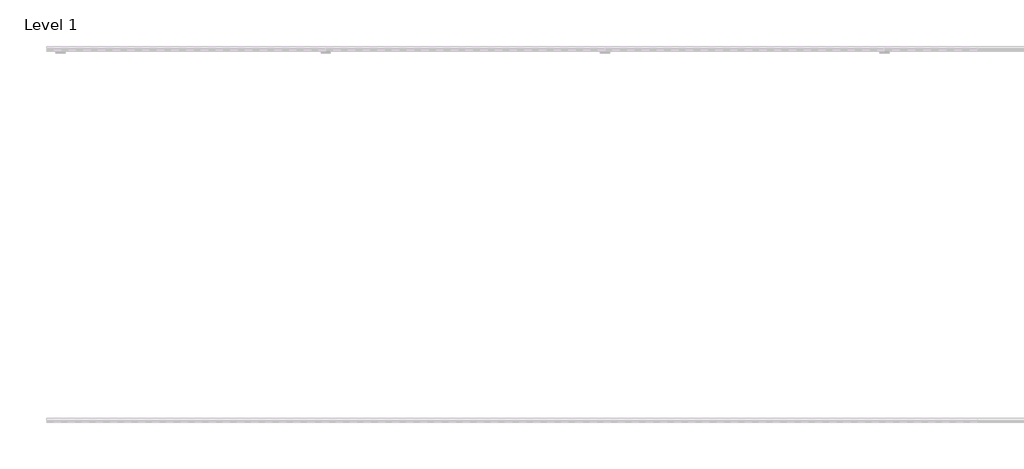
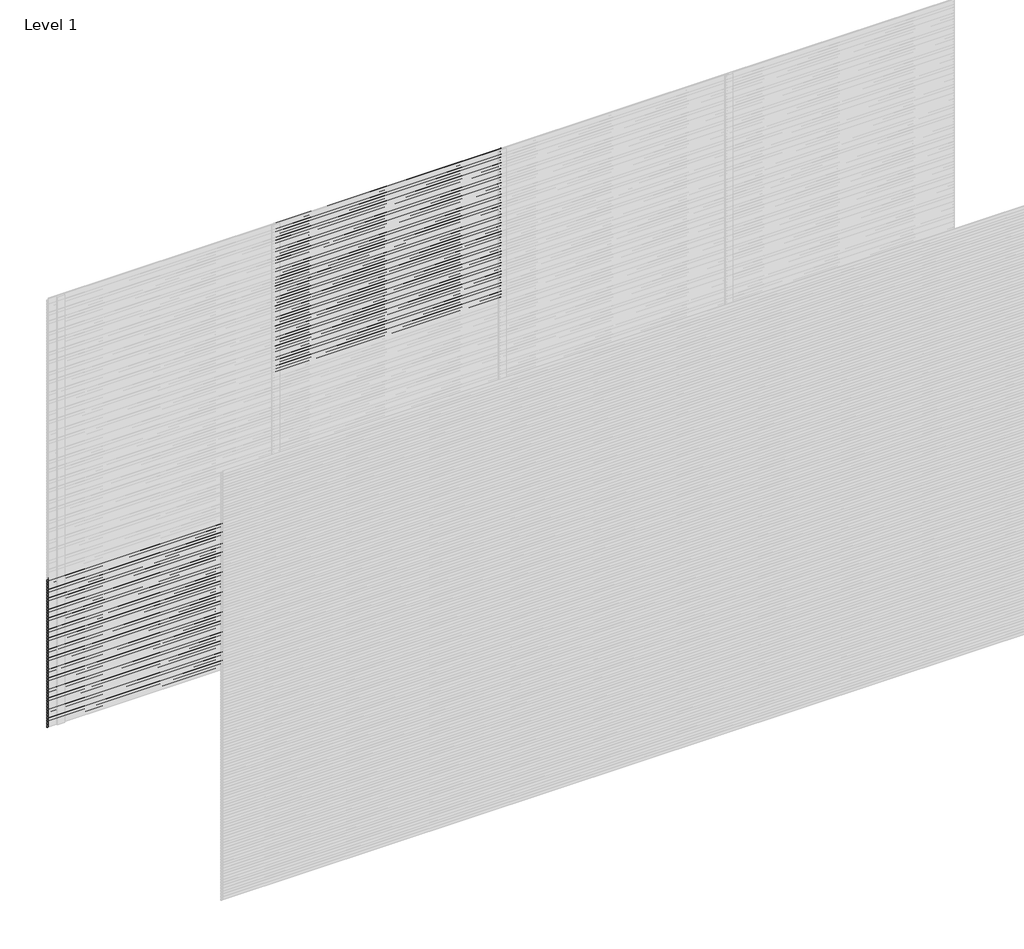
# One storey, part 27 of 31: 104 proxies.
"""IFC4 building model written with IfcOpenShell, lengths in millimetres."""

from ifc_helpers import new_model, si_unit, frame, origin, place, context, project, spatial, polyline, outline, extrude, element, save

model = new_model("IFC4")

# Units and contexts
model_context = context("Model", 3, world=origin())
ifc_project = project(units=[si_unit("LENGTHUNIT", "METRE", prefix="MILLI")], contexts=[model_context])

# Site, building, storey
site = spatial("IfcSite", under=ifc_project)
building = spatial("IfcBuilding", under=site)
storey = spatial("IfcBuildingStorey", under=building, Name="Level 1", Elevation=0.0)

# Proxies
placement = place(None, origin())
element("IfcBuildingElementProxy", 1, Name="Wall Sweeps", at=placement, inside=storey, context=model_context, shape_type="SweptSolid", body=[
    extrude(outline(polyline([(5.0, 1040.0), (5.0, 1028.942893), (24.0, 1013.0), (24.0, 1000.0), (3.0, 1017.6210923), (3.0, 1040.0), (5.0, 1040.0)])), frame((0.0, 0.0, 0.0), z_axis=(1.0, 0.0, 0.0), x_axis=(0.0, 1.0, 0.0)), (0.0, 0.0, 1.0), 1500.0),
])
element("IfcBuildingElementProxy", 2, Name="Wall Sweeps", at=placement, inside=storey, context=model_context, shape_type="SweptSolid", body=[
    extrude(outline(polyline([(5.0, 1020.0), (5.0, 1008.942893), (24.0, 993.0), (24.0, 980.0), (3.0, 997.6210923), (3.0, 1020.0), (5.0, 1020.0)])), frame((0.0, 0.0, 0.0), z_axis=(1.0, 0.0, 0.0), x_axis=(0.0, 1.0, 0.0)), (0.0, 0.0, 1.0), 1500.0),
])
element("IfcBuildingElementProxy", 3, Name="Wall Sweeps", at=placement, inside=storey, context=model_context, shape_type="SweptSolid", body=[
    extrude(outline(polyline([(5.0, 1000.0), (5.0, 988.942893), (24.0, 973.0), (24.0, 960.0), (3.0, 977.6210923), (3.0, 1000.0), (5.0, 1000.0)])), frame((0.0, 0.0, 0.0), z_axis=(1.0, 0.0, 0.0), x_axis=(0.0, 1.0, 0.0)), (0.0, 0.0, 1.0), 1500.0),
])
element("IfcBuildingElementProxy", 4, Name="Wall Sweeps", at=placement, inside=storey, context=model_context, shape_type="SweptSolid", body=[
    extrude(outline(polyline([(5.0, 980.0), (5.0, 968.942893), (24.0, 953.0), (24.0, 940.0), (3.0, 957.6210923), (3.0, 980.0), (5.0, 980.0)])), frame((0.0, 0.0, 0.0), z_axis=(1.0, 0.0, 0.0), x_axis=(0.0, 1.0, 0.0)), (0.0, 0.0, 1.0), 1500.0),
])
element("IfcBuildingElementProxy", 5, Name="Wall Sweeps", at=placement, inside=storey, context=model_context, shape_type="SweptSolid", body=[
    extrude(outline(polyline([(5.0, 960.0), (5.0, 948.942893), (24.0, 933.0), (24.0, 920.0), (3.0, 937.6210923), (3.0, 960.0), (5.0, 960.0)])), frame((0.0, 0.0, 0.0), z_axis=(1.0, 0.0, 0.0), x_axis=(0.0, 1.0, 0.0)), (0.0, 0.0, 1.0), 1500.0),
])
element("IfcBuildingElementProxy", 6, Name="Wall Sweeps", at=placement, inside=storey, context=model_context, shape_type="SweptSolid", body=[
    extrude(outline(polyline([(5.0, 940.0), (5.0, 928.942893), (24.0, 913.0), (24.0, 900.0), (3.0, 917.6210923), (3.0, 940.0), (5.0, 940.0)])), frame((0.0, 0.0, 0.0), z_axis=(1.0, 0.0, 0.0), x_axis=(0.0, 1.0, 0.0)), (0.0, 0.0, 1.0), 1500.0),
])
element("IfcBuildingElementProxy", 7, Name="Wall Sweeps", at=placement, inside=storey, context=model_context, shape_type="SweptSolid", body=[
    extrude(outline(polyline([(5.0, 920.0), (5.0, 908.942893), (24.0, 893.0), (24.0, 880.0), (3.0, 897.6210923), (3.0, 920.0), (5.0, 920.0)])), frame((0.0, 0.0, 0.0), z_axis=(1.0, 0.0, 0.0), x_axis=(0.0, 1.0, 0.0)), (0.0, 0.0, 1.0), 1500.0),
])
element("IfcBuildingElementProxy", 8, Name="Wall Sweeps", at=placement, inside=storey, context=model_context, shape_type="SweptSolid", body=[
    extrude(outline(polyline([(5.0, 900.0), (5.0, 888.942893), (24.0, 873.0), (24.0, 860.0), (3.0, 877.6210923), (3.0, 900.0), (5.0, 900.0)])), frame((0.0, 0.0, 0.0), z_axis=(1.0, 0.0, 0.0), x_axis=(0.0, 1.0, 0.0)), (0.0, 0.0, 1.0), 1500.0),
])
element("IfcBuildingElementProxy", 9, Name="Wall Sweeps", at=placement, inside=storey, context=model_context, shape_type="SweptSolid", body=[
    extrude(outline(polyline([(5.0, 880.0), (5.0, 868.942893), (24.0, 853.0), (24.0, 840.0), (3.0, 857.6210923), (3.0, 880.0), (5.0, 880.0)])), frame((0.0, 0.0, 0.0), z_axis=(1.0, 0.0, 0.0), x_axis=(0.0, 1.0, 0.0)), (0.0, 0.0, 1.0), 1500.0),
])
element("IfcBuildingElementProxy", 10, Name="Wall Sweeps", at=placement, inside=storey, context=model_context, shape_type="SweptSolid", body=[
    extrude(outline(polyline([(5.0, 860.0), (5.0, 848.942893), (24.0, 833.0), (24.0, 820.0), (3.0, 837.6210923), (3.0, 860.0), (5.0, 860.0)])), frame((0.0, 0.0, 0.0), z_axis=(1.0, 0.0, 0.0), x_axis=(0.0, 1.0, 0.0)), (0.0, 0.0, 1.0), 1500.0),
])
element("IfcBuildingElementProxy", 11, Name="Wall Sweeps", at=placement, inside=storey, context=model_context, shape_type="SweptSolid", body=[
    extrude(outline(polyline([(5.0, 840.0), (5.0, 828.942893), (24.0, 813.0), (24.0, 800.0), (3.0, 817.6210923), (3.0, 840.0), (5.0, 840.0)])), frame((0.0, 0.0, 0.0), z_axis=(1.0, 0.0, 0.0), x_axis=(0.0, 1.0, 0.0)), (0.0, 0.0, 1.0), 1500.0),
])
element("IfcBuildingElementProxy", 12, Name="Wall Sweeps", at=placement, inside=storey, context=model_context, shape_type="SweptSolid", body=[
    extrude(outline(polyline([(5.0, 820.0), (5.0, 808.942893), (24.0, 793.0), (24.0, 780.0), (3.0, 797.6210923), (3.0, 820.0), (5.0, 820.0)])), frame((0.0, 0.0, 0.0), z_axis=(1.0, 0.0, 0.0), x_axis=(0.0, 1.0, 0.0)), (0.0, 0.0, 1.0), 1500.0),
])
element("IfcBuildingElementProxy", 13, Name="Wall Sweeps", at=placement, inside=storey, context=model_context, shape_type="SweptSolid", body=[
    extrude(outline(polyline([(5.0, 800.0), (5.0, 788.942893), (24.0, 773.0), (24.0, 760.0), (3.0, 777.6210923), (3.0, 800.0), (5.0, 800.0)])), frame((0.0, 0.0, 0.0), z_axis=(1.0, 0.0, 0.0), x_axis=(0.0, 1.0, 0.0)), (0.0, 0.0, 1.0), 1500.0),
])
element("IfcBuildingElementProxy", 14, Name="Wall Sweeps", at=placement, inside=storey, context=model_context, shape_type="SweptSolid", body=[
    extrude(outline(polyline([(5.0, 780.0), (5.0, 768.942893), (24.0, 753.0), (24.0, 740.0), (3.0, 757.6210923), (3.0, 780.0), (5.0, 780.0)])), frame((0.0, 0.0, 0.0), z_axis=(1.0, 0.0, 0.0), x_axis=(0.0, 1.0, 0.0)), (0.0, 0.0, 1.0), 1500.0),
])
element("IfcBuildingElementProxy", 15, Name="Wall Sweeps", at=placement, inside=storey, context=model_context, shape_type="SweptSolid", body=[
    extrude(outline(polyline([(5.0, 760.0), (5.0, 748.942893), (24.0, 733.0), (24.0, 720.0), (3.0, 737.6210923), (3.0, 760.0), (5.0, 760.0)])), frame((0.0, 0.0, 0.0), z_axis=(1.0, 0.0, 0.0), x_axis=(0.0, 1.0, 0.0)), (0.0, 0.0, 1.0), 1500.0),
])
element("IfcBuildingElementProxy", 16, Name="Wall Sweeps", at=placement, inside=storey, context=model_context, shape_type="SweptSolid", body=[
    extrude(outline(polyline([(5.0, 740.0), (5.0, 728.942893), (24.0, 713.0), (24.0, 700.0), (3.0, 717.6210923), (3.0, 740.0), (5.0, 740.0)])), frame((0.0, 0.0, 0.0), z_axis=(1.0, 0.0, 0.0), x_axis=(0.0, 1.0, 0.0)), (0.0, 0.0, 1.0), 1500.0),
])
element("IfcBuildingElementProxy", 17, Name="Wall Sweeps", at=placement, inside=storey, context=model_context, shape_type="SweptSolid", body=[
    extrude(outline(polyline([(5.0, 720.0), (5.0, 708.942893), (24.0, 693.0), (24.0, 680.0), (3.0, 697.6210923), (3.0, 720.0), (5.0, 720.0)])), frame((0.0, 0.0, 0.0), z_axis=(1.0, 0.0, 0.0), x_axis=(0.0, 1.0, 0.0)), (0.0, 0.0, 1.0), 1500.0),
])
element("IfcBuildingElementProxy", 18, Name="Wall Sweeps", at=placement, inside=storey, context=model_context, shape_type="SweptSolid", body=[
    extrude(outline(polyline([(5.0, 700.0), (5.0, 688.942893), (24.0, 673.0), (24.0, 660.0), (3.0, 677.6210923), (3.0, 700.0), (5.0, 700.0)])), frame((0.0, 0.0, 0.0), z_axis=(1.0, 0.0, 0.0), x_axis=(0.0, 1.0, 0.0)), (0.0, 0.0, 1.0), 1500.0),
])
element("IfcBuildingElementProxy", 19, Name="Wall Sweeps", at=placement, inside=storey, context=model_context, shape_type="SweptSolid", body=[
    extrude(outline(polyline([(5.0, 680.0), (5.0, 668.942893), (24.0, 653.0), (24.0, 640.0), (3.0, 657.6210923), (3.0, 680.0), (5.0, 680.0)])), frame((0.0, 0.0, 0.0), z_axis=(1.0, 0.0, 0.0), x_axis=(0.0, 1.0, 0.0)), (0.0, 0.0, 1.0), 1500.0),
])
element("IfcBuildingElementProxy", 20, Name="Wall Sweeps", at=placement, inside=storey, context=model_context, shape_type="SweptSolid", body=[
    extrude(outline(polyline([(5.0, 660.0), (5.0, 648.942893), (24.0, 633.0), (24.0, 620.0), (3.0, 637.6210923), (3.0, 660.0), (5.0, 660.0)])), frame((0.0, 0.0, 0.0), z_axis=(1.0, 0.0, 0.0), x_axis=(0.0, 1.0, 0.0)), (0.0, 0.0, 1.0), 1500.0),
])
element("IfcBuildingElementProxy", 21, Name="Wall Sweeps", at=placement, inside=storey, context=model_context, shape_type="SweptSolid", body=[
    extrude(outline(polyline([(5.0, 640.0), (5.0, 628.942893), (24.0, 613.0), (24.0, 600.0), (3.0, 617.6210923), (3.0, 640.0), (5.0, 640.0)])), frame((0.0, 0.0, 0.0), z_axis=(1.0, 0.0, 0.0), x_axis=(0.0, 1.0, 0.0)), (0.0, 0.0, 1.0), 1500.0),
])
element("IfcBuildingElementProxy", 22, Name="Wall Sweeps", at=placement, inside=storey, context=model_context, shape_type="SweptSolid", body=[
    extrude(outline(polyline([(5.0, 620.0), (5.0, 608.942893), (24.0, 593.0), (24.0, 580.0), (3.0, 597.6210923), (3.0, 620.0), (5.0, 620.0)])), frame((0.0, 0.0, 0.0), z_axis=(1.0, 0.0, 0.0), x_axis=(0.0, 1.0, 0.0)), (0.0, 0.0, 1.0), 1500.0),
])
element("IfcBuildingElementProxy", 23, Name="Wall Sweeps", at=placement, inside=storey, context=model_context, shape_type="SweptSolid", body=[
    extrude(outline(polyline([(5.0, 600.0), (5.0, 588.942893), (24.0, 573.0), (24.0, 560.0), (3.0, 577.6210923), (3.0, 600.0), (5.0, 600.0)])), frame((0.0, 0.0, 0.0), z_axis=(1.0, 0.0, 0.0), x_axis=(0.0, 1.0, 0.0)), (0.0, 0.0, 1.0), 1500.0),
])
element("IfcBuildingElementProxy", 24, Name="Wall Sweeps", at=placement, inside=storey, context=model_context, shape_type="SweptSolid", body=[
    extrude(outline(polyline([(5.0, 580.0), (5.0, 568.942893), (24.0, 553.0), (24.0, 540.0), (3.0, 557.6210923), (3.0, 580.0), (5.0, 580.0)])), frame((0.0, 0.0, 0.0), z_axis=(1.0, 0.0, 0.0), x_axis=(0.0, 1.0, 0.0)), (0.0, 0.0, 1.0), 1500.0),
])
element("IfcBuildingElementProxy", 25, Name="Wall Sweeps", at=placement, inside=storey, context=model_context, shape_type="SweptSolid", body=[
    extrude(outline(polyline([(5.0, 560.0), (5.0, 548.942893), (24.0, 533.0), (24.0, 520.0), (3.0, 537.6210923), (3.0, 560.0), (5.0, 560.0)])), frame((0.0, 0.0, 0.0), z_axis=(1.0, 0.0, 0.0), x_axis=(0.0, 1.0, 0.0)), (0.0, 0.0, 1.0), 1500.0),
])
element("IfcBuildingElementProxy", 26, Name="Wall Sweeps", at=placement, inside=storey, context=model_context, shape_type="SweptSolid", body=[
    extrude(outline(polyline([(5.0, 540.0), (5.0, 528.942893), (24.0, 513.0), (24.0, 500.0), (3.0, 517.6210923), (3.0, 540.0), (5.0, 540.0)])), frame((0.0, 0.0, 0.0), z_axis=(1.0, 0.0, 0.0), x_axis=(0.0, 1.0, 0.0)), (0.0, 0.0, 1.0), 1500.0),
])
element("IfcBuildingElementProxy", 27, Name="Wall Sweeps", at=placement, inside=storey, context=model_context, shape_type="SweptSolid", body=[
    extrude(outline(polyline([(5.0, 520.0), (5.0, 508.942893), (24.0, 493.0), (24.0, 480.0), (3.0, 497.6210923), (3.0, 520.0), (5.0, 520.0)])), frame((0.0, 0.0, 0.0), z_axis=(1.0, 0.0, 0.0), x_axis=(0.0, 1.0, 0.0)), (0.0, 0.0, 1.0), 1500.0),
])
element("IfcBuildingElementProxy", 28, Name="Wall Sweeps", at=placement, inside=storey, context=model_context, shape_type="SweptSolid", body=[
    extrude(outline(polyline([(5.0, 500.0), (5.0, 488.942893), (24.0, 473.0), (24.0, 460.0), (3.0, 477.6210923), (3.0, 500.0), (5.0, 500.0)])), frame((0.0, 0.0, 0.0), z_axis=(1.0, 0.0, 0.0), x_axis=(0.0, 1.0, 0.0)), (0.0, 0.0, 1.0), 1500.0),
])
element("IfcBuildingElementProxy", 29, Name="Wall Sweeps", at=placement, inside=storey, context=model_context, shape_type="SweptSolid", body=[
    extrude(outline(polyline([(5.0, 480.0), (5.0, 468.942893), (24.0, 453.0), (24.0, 440.0), (3.0, 457.6210923), (3.0, 480.0), (5.0, 480.0)])), frame((0.0, 0.0, 0.0), z_axis=(1.0, 0.0, 0.0), x_axis=(0.0, 1.0, 0.0)), (0.0, 0.0, 1.0), 1500.0),
])
element("IfcBuildingElementProxy", 30, Name="Wall Sweeps", at=placement, inside=storey, context=model_context, shape_type="SweptSolid", body=[
    extrude(outline(polyline([(5.0, 460.0), (5.0, 448.942893), (24.0, 433.0), (24.0, 420.0), (3.0, 437.6210923), (3.0, 460.0), (5.0, 460.0)])), frame((0.0, 0.0, 0.0), z_axis=(1.0, 0.0, 0.0), x_axis=(0.0, 1.0, 0.0)), (0.0, 0.0, 1.0), 1500.0),
])
element("IfcBuildingElementProxy", 31, Name="Wall Sweeps", at=placement, inside=storey, context=model_context, shape_type="SweptSolid", body=[
    extrude(outline(polyline([(5.0, 440.0), (5.0, 428.942893), (24.0, 413.0), (24.0, 400.0), (3.0, 417.6210923), (3.0, 440.0), (5.0, 440.0)])), frame((0.0, 0.0, 0.0), z_axis=(1.0, 0.0, 0.0), x_axis=(0.0, 1.0, 0.0)), (0.0, 0.0, 1.0), 1500.0),
])
element("IfcBuildingElementProxy", 32, Name="Wall Sweeps", at=placement, inside=storey, context=model_context, shape_type="SweptSolid", body=[
    extrude(outline(polyline([(5.0, 420.0), (5.0, 408.942893), (24.0, 393.0), (24.0, 380.0), (3.0, 397.6210923), (3.0, 420.0), (5.0, 420.0)])), frame((0.0, 0.0, 0.0), z_axis=(1.0, 0.0, 0.0), x_axis=(0.0, 1.0, 0.0)), (0.0, 0.0, 1.0), 1500.0),
])
element("IfcBuildingElementProxy", 33, Name="Wall Sweeps", at=placement, inside=storey, context=model_context, shape_type="SweptSolid", body=[
    extrude(outline(polyline([(5.0, 400.0), (5.0, 388.942893), (24.0, 373.0), (24.0, 360.0), (3.0, 377.6210923), (3.0, 400.0), (5.0, 400.0)])), frame((0.0, 0.0, 0.0), z_axis=(1.0, 0.0, 0.0), x_axis=(0.0, 1.0, 0.0)), (0.0, 0.0, 1.0), 1500.0),
])
element("IfcBuildingElementProxy", 34, Name="Wall Sweeps", at=placement, inside=storey, context=model_context, shape_type="SweptSolid", body=[
    extrude(outline(polyline([(5.0, 380.0), (5.0, 368.942893), (24.0, 353.0), (24.0, 340.0), (3.0, 357.6210923), (3.0, 380.0), (5.0, 380.0)])), frame((0.0, 0.0, 0.0), z_axis=(1.0, 0.0, 0.0), x_axis=(0.0, 1.0, 0.0)), (0.0, 0.0, 1.0), 1500.0),
])
element("IfcBuildingElementProxy", 35, Name="Wall Sweeps", at=placement, inside=storey, context=model_context, shape_type="SweptSolid", body=[
    extrude(outline(polyline([(5.0, 360.0), (5.0, 348.942893), (24.0, 333.0), (24.0, 320.0), (3.0, 337.6210923), (3.0, 360.0), (5.0, 360.0)])), frame((0.0, 0.0, 0.0), z_axis=(1.0, 0.0, 0.0), x_axis=(0.0, 1.0, 0.0)), (0.0, 0.0, 1.0), 1500.0),
])
element("IfcBuildingElementProxy", 36, Name="Wall Sweeps", at=placement, inside=storey, context=model_context, shape_type="SweptSolid", body=[
    extrude(outline(polyline([(5.0, 340.0), (5.0, 328.942893), (24.0, 313.0), (24.0, 300.0), (3.0, 317.6210923), (3.0, 340.0), (5.0, 340.0)])), frame((0.0, 0.0, 0.0), z_axis=(1.0, 0.0, 0.0), x_axis=(0.0, 1.0, 0.0)), (0.0, 0.0, 1.0), 1500.0),
])
element("IfcBuildingElementProxy", 37, Name="Wall Sweeps", at=placement, inside=storey, context=model_context, shape_type="SweptSolid", body=[
    extrude(outline(polyline([(5.0, 320.0), (5.0, 308.942893), (24.0, 293.0), (24.0, 280.0), (3.0, 297.6210923), (3.0, 320.0), (5.0, 320.0)])), frame((0.0, 0.0, 0.0), z_axis=(1.0, 0.0, 0.0), x_axis=(0.0, 1.0, 0.0)), (0.0, 0.0, 1.0), 1500.0),
])
element("IfcBuildingElementProxy", 38, Name="Wall Sweeps", at=placement, inside=storey, context=model_context, shape_type="SweptSolid", body=[
    extrude(outline(polyline([(5.0, 300.0), (5.0, 288.942893), (24.0, 273.0), (24.0, 260.0), (3.0, 277.6210923), (3.0, 300.0), (5.0, 300.0)])), frame((0.0, 0.0, 0.0), z_axis=(1.0, 0.0, 0.0), x_axis=(0.0, 1.0, 0.0)), (0.0, 0.0, 1.0), 1500.0),
])
element("IfcBuildingElementProxy", 39, Name="Wall Sweeps", at=placement, inside=storey, context=model_context, shape_type="SweptSolid", body=[
    extrude(outline(polyline([(5.0, 280.0), (5.0, 268.942893), (24.0, 253.0), (24.0, 240.0), (3.0, 257.6210923), (3.0, 280.0), (5.0, 280.0)])), frame((0.0, 0.0, 0.0), z_axis=(1.0, 0.0, 0.0), x_axis=(0.0, 1.0, 0.0)), (0.0, 0.0, 1.0), 1500.0),
])
element("IfcBuildingElementProxy", 40, Name="Wall Sweeps", at=placement, inside=storey, context=model_context, shape_type="SweptSolid", body=[
    extrude(outline(polyline([(5.0, 260.0), (5.0, 248.942893), (24.0, 233.0), (24.0, 220.0), (3.0, 237.6210923), (3.0, 260.0), (5.0, 260.0)])), frame((0.0, 0.0, 0.0), z_axis=(1.0, 0.0, 0.0), x_axis=(0.0, 1.0, 0.0)), (0.0, 0.0, 1.0), 1500.0),
])
element("IfcBuildingElementProxy", 41, Name="Wall Sweeps", at=placement, inside=storey, context=model_context, shape_type="SweptSolid", body=[
    extrude(outline(polyline([(5.0, 240.0), (5.0, 228.942893), (24.0, 213.0), (24.0, 200.0), (3.0, 217.6210923), (3.0, 240.0), (5.0, 240.0)])), frame((0.0, 0.0, 0.0), z_axis=(1.0, 0.0, 0.0), x_axis=(0.0, 1.0, 0.0)), (0.0, 0.0, 1.0), 1500.0),
])
element("IfcBuildingElementProxy", 42, Name="Wall Sweeps", at=placement, inside=storey, context=model_context, shape_type="SweptSolid", body=[
    extrude(outline(polyline([(5.0, 220.0), (5.0, 208.942893), (24.0, 193.0), (24.0, 180.0), (3.0, 197.6210923), (3.0, 220.0), (5.0, 220.0)])), frame((0.0, 0.0, 0.0), z_axis=(1.0, 0.0, 0.0), x_axis=(0.0, 1.0, 0.0)), (0.0, 0.0, 1.0), 1500.0),
])
element("IfcBuildingElementProxy", 43, Name="Wall Sweeps", at=placement, inside=storey, context=model_context, shape_type="SweptSolid", body=[
    extrude(outline(polyline([(5.0, 200.0), (5.0, 188.942893), (24.0, 173.0), (24.0, 160.0), (3.0, 177.6210923), (3.0, 200.0), (5.0, 200.0)])), frame((0.0, 0.0, 0.0), z_axis=(1.0, 0.0, 0.0), x_axis=(0.0, 1.0, 0.0)), (0.0, 0.0, 1.0), 1500.0),
])
element("IfcBuildingElementProxy", 44, Name="Wall Sweeps", at=placement, inside=storey, context=model_context, shape_type="SweptSolid", body=[
    extrude(outline(polyline([(5.0, 180.0), (5.0, 168.942893), (24.0, 153.0), (24.0, 140.0), (3.0, 157.6210923), (3.0, 180.0), (5.0, 180.0)])), frame((0.0, 0.0, 0.0), z_axis=(1.0, 0.0, 0.0), x_axis=(0.0, 1.0, 0.0)), (0.0, 0.0, 1.0), 1500.0),
])
element("IfcBuildingElementProxy", 45, Name="Wall Sweeps", at=placement, inside=storey, context=model_context, shape_type="SweptSolid", body=[
    extrude(outline(polyline([(5.0, 160.0), (5.0, 148.942893), (24.0, 133.0), (24.0, 120.0), (3.0, 137.6210923), (3.0, 160.0), (5.0, 160.0)])), frame((0.0, 0.0, 0.0), z_axis=(1.0, 0.0, 0.0), x_axis=(0.0, 1.0, 0.0)), (0.0, 0.0, 1.0), 1500.0),
])
element("IfcBuildingElementProxy", 46, Name="Wall Sweeps", at=placement, inside=storey, context=model_context, shape_type="SweptSolid", body=[
    extrude(outline(polyline([(5.0, 140.0), (5.0, 128.942893), (24.0, 113.0), (24.0, 100.0), (3.0, 117.6210923), (3.0, 140.0), (5.0, 140.0)])), frame((0.0, 0.0, 0.0), z_axis=(1.0, 0.0, 0.0), x_axis=(0.0, 1.0, 0.0)), (0.0, 0.0, 1.0), 1500.0),
])
element("IfcBuildingElementProxy", 47, Name="Wall Sweeps", at=placement, inside=storey, context=model_context, shape_type="SweptSolid", body=[
    extrude(outline(polyline([(5.0, 120.0), (5.0, 108.942893), (24.0, 93.0), (24.0, 80.0), (3.0, 97.6210923), (3.0, 120.0), (5.0, 120.0)])), frame((0.0, 0.0, 0.0), z_axis=(1.0, 0.0, 0.0), x_axis=(0.0, 1.0, 0.0)), (0.0, 0.0, 1.0), 1500.0),
])
element("IfcBuildingElementProxy", 48, Name="Wall Sweeps", at=placement, inside=storey, context=model_context, shape_type="SweptSolid", body=[
    extrude(outline(polyline([(5.0, 100.0), (5.0, 88.942893), (24.0, 73.0), (24.0, 60.0), (3.0, 77.6210923), (3.0, 100.0), (5.0, 100.0)])), frame((0.0, 0.0, 0.0), z_axis=(1.0, 0.0, 0.0), x_axis=(0.0, 1.0, 0.0)), (0.0, 0.0, 1.0), 1500.0),
])
element("IfcBuildingElementProxy", 49, Name="Wall Sweeps", at=placement, inside=storey, context=model_context, shape_type="SweptSolid", body=[
    extrude(outline(polyline([(5.0, 80.0), (5.0, 68.942893), (24.0, 53.0), (24.0, 40.0), (3.0, 57.6210923), (3.0, 80.0), (5.0, 80.0)])), frame((0.0, 0.0, 0.0), z_axis=(1.0, 0.0, 0.0), x_axis=(0.0, 1.0, 0.0)), (0.0, 0.0, 1.0), 1500.0),
])
element("IfcBuildingElementProxy", 50, Name="Wall Sweeps", at=placement, inside=storey, context=model_context, shape_type="SweptSolid", body=[
    extrude(outline(polyline([(5.0, 60.0), (5.0, 48.942893), (24.0, 33.0), (24.0, 20.0), (3.0, 37.6210923), (3.0, 60.0), (5.0, 60.0)])), frame((0.0, 0.0, 0.0), z_axis=(1.0, 0.0, 0.0), x_axis=(0.0, 1.0, 0.0)), (0.0, 0.0, 1.0), 1500.0),
])
element("IfcBuildingElementProxy", 51, Name="Wall Sweeps", at=placement, inside=storey, context=model_context, shape_type="SweptSolid", body=[
    extrude(outline(polyline([(5.0, 40.0), (5.0, 28.942893), (24.0, 13.0), (24.0, 0.0), (3.0, 17.6210923), (3.0, 40.0), (5.0, 40.0)])), frame((0.0, 0.0, 0.0), z_axis=(1.0, 0.0, 0.0), x_axis=(0.0, 1.0, 0.0)), (0.0, 0.0, 1.0), 1500.0),
])
element("IfcBuildingElementProxy", 52, Name="Wall Sweeps", at=placement, inside=storey, context=model_context, shape_type="SweptSolid", body=[
    extrude(outline(polyline([(5.0, 20.0), (5.0, 8.942893), (24.0, -7.0), (24.0, -20.0), (3.0, -2.3789077), (3.0, 20.0), (5.0, 20.0)])), frame((0.0, 0.0, 0.0), z_axis=(1.0, 0.0, 0.0), x_axis=(0.0, 1.0, 0.0)), (0.0, 0.0, 1.0), 1500.0),
])
element("IfcBuildingElementProxy", 53, Name="Wall Sweeps", at=placement, inside=storey, context=model_context, shape_type="SweptSolid", body=[
    extrude(outline(polyline([(5.0, 3000.0), (5.0, 2988.942893), (24.0, 2973.0), (24.0, 2960.0), (3.0, 2977.6210923), (3.0, 3000.0), (5.0, 3000.0)])), frame((1500.0, 0.0, 0.0), z_axis=(1.0, 0.0, 0.0), x_axis=(0.0, 1.0, 0.0)), (0.0, 0.0, 1.0), 1500.0),
])
element("IfcBuildingElementProxy", 54, Name="Wall Sweeps", at=placement, inside=storey, context=model_context, shape_type="SweptSolid", body=[
    extrude(outline(polyline([(5.0, 2980.0), (5.0, 2968.942893), (24.0, 2953.0), (24.0, 2940.0), (3.0, 2957.6210923), (3.0, 2980.0), (5.0, 2980.0)])), frame((1500.0, 0.0, 0.0), z_axis=(1.0, 0.0, 0.0), x_axis=(0.0, 1.0, 0.0)), (0.0, 0.0, 1.0), 1500.0),
])
element("IfcBuildingElementProxy", 55, Name="Wall Sweeps", at=placement, inside=storey, context=model_context, shape_type="SweptSolid", body=[
    extrude(outline(polyline([(5.0, 2960.0), (5.0, 2948.942893), (24.0, 2933.0), (24.0, 2920.0), (3.0, 2937.6210923), (3.0, 2960.0), (5.0, 2960.0)])), frame((1500.0, 0.0, 0.0), z_axis=(1.0, 0.0, 0.0), x_axis=(0.0, 1.0, 0.0)), (0.0, 0.0, 1.0), 1500.0),
])
element("IfcBuildingElementProxy", 56, Name="Wall Sweeps", at=placement, inside=storey, context=model_context, shape_type="SweptSolid", body=[
    extrude(outline(polyline([(5.0, 2940.0), (5.0, 2928.942893), (24.0, 2913.0), (24.0, 2900.0), (3.0, 2917.6210923), (3.0, 2940.0), (5.0, 2940.0)])), frame((1500.0, 0.0, 0.0), z_axis=(1.0, 0.0, 0.0), x_axis=(0.0, 1.0, 0.0)), (0.0, 0.0, 1.0), 1500.0),
])
element("IfcBuildingElementProxy", 57, Name="Wall Sweeps", at=placement, inside=storey, context=model_context, shape_type="SweptSolid", body=[
    extrude(outline(polyline([(5.0, 2920.0), (5.0, 2908.942893), (24.0, 2893.0), (24.0, 2880.0), (3.0, 2897.6210923), (3.0, 2920.0), (5.0, 2920.0)])), frame((1500.0, 0.0, 0.0), z_axis=(1.0, 0.0, 0.0), x_axis=(0.0, 1.0, 0.0)), (0.0, 0.0, 1.0), 1500.0),
])
element("IfcBuildingElementProxy", 58, Name="Wall Sweeps", at=placement, inside=storey, context=model_context, shape_type="SweptSolid", body=[
    extrude(outline(polyline([(5.0, 2900.0), (5.0, 2888.942893), (24.0, 2873.0), (24.0, 2860.0), (3.0, 2877.6210923), (3.0, 2900.0), (5.0, 2900.0)])), frame((1500.0, 0.0, 0.0), z_axis=(1.0, 0.0, 0.0), x_axis=(0.0, 1.0, 0.0)), (0.0, 0.0, 1.0), 1500.0),
])
element("IfcBuildingElementProxy", 59, Name="Wall Sweeps", at=placement, inside=storey, context=model_context, shape_type="SweptSolid", body=[
    extrude(outline(polyline([(5.0, 2880.0), (5.0, 2868.942893), (24.0, 2853.0), (24.0, 2840.0), (3.0, 2857.6210923), (3.0, 2880.0), (5.0, 2880.0)])), frame((1500.0, 0.0, 0.0), z_axis=(1.0, 0.0, 0.0), x_axis=(0.0, 1.0, 0.0)), (0.0, 0.0, 1.0), 1500.0),
])
element("IfcBuildingElementProxy", 60, Name="Wall Sweeps", at=placement, inside=storey, context=model_context, shape_type="SweptSolid", body=[
    extrude(outline(polyline([(5.0, 2860.0), (5.0, 2848.942893), (24.0, 2833.0), (24.0, 2820.0), (3.0, 2837.6210923), (3.0, 2860.0), (5.0, 2860.0)])), frame((1500.0, 0.0, 0.0), z_axis=(1.0, 0.0, 0.0), x_axis=(0.0, 1.0, 0.0)), (0.0, 0.0, 1.0), 1500.0),
])
element("IfcBuildingElementProxy", 61, Name="Wall Sweeps", at=placement, inside=storey, context=model_context, shape_type="SweptSolid", body=[
    extrude(outline(polyline([(5.0, 2840.0), (5.0, 2828.942893), (24.0, 2813.0), (24.0, 2800.0), (3.0, 2817.6210923), (3.0, 2840.0), (5.0, 2840.0)])), frame((1500.0, 0.0, 0.0), z_axis=(1.0, 0.0, 0.0), x_axis=(0.0, 1.0, 0.0)), (0.0, 0.0, 1.0), 1500.0),
])
element("IfcBuildingElementProxy", 62, Name="Wall Sweeps", at=placement, inside=storey, context=model_context, shape_type="SweptSolid", body=[
    extrude(outline(polyline([(5.0, 2820.0), (5.0, 2808.942893), (24.0, 2793.0), (24.0, 2780.0), (3.0, 2797.6210923), (3.0, 2820.0), (5.0, 2820.0)])), frame((1500.0, 0.0, 0.0), z_axis=(1.0, 0.0, 0.0), x_axis=(0.0, 1.0, 0.0)), (0.0, 0.0, 1.0), 1500.0),
])
element("IfcBuildingElementProxy", 63, Name="Wall Sweeps", at=placement, inside=storey, context=model_context, shape_type="SweptSolid", body=[
    extrude(outline(polyline([(5.0, 2800.0), (5.0, 2788.942893), (24.0, 2773.0), (24.0, 2760.0), (3.0, 2777.6210923), (3.0, 2800.0), (5.0, 2800.0)])), frame((1500.0, 0.0, 0.0), z_axis=(1.0, 0.0, 0.0), x_axis=(0.0, 1.0, 0.0)), (0.0, 0.0, 1.0), 1500.0),
])
element("IfcBuildingElementProxy", 64, Name="Wall Sweeps", at=placement, inside=storey, context=model_context, shape_type="SweptSolid", body=[
    extrude(outline(polyline([(5.0, 2780.0), (5.0, 2768.942893), (24.0, 2753.0), (24.0, 2740.0), (3.0, 2757.6210923), (3.0, 2780.0), (5.0, 2780.0)])), frame((1500.0, 0.0, 0.0), z_axis=(1.0, 0.0, 0.0), x_axis=(0.0, 1.0, 0.0)), (0.0, 0.0, 1.0), 1500.0),
])
element("IfcBuildingElementProxy", 65, Name="Wall Sweeps", at=placement, inside=storey, context=model_context, shape_type="SweptSolid", body=[
    extrude(outline(polyline([(5.0, 2760.0), (5.0, 2748.942893), (24.0, 2733.0), (24.0, 2720.0), (3.0, 2737.6210923), (3.0, 2760.0), (5.0, 2760.0)])), frame((1500.0, 0.0, 0.0), z_axis=(1.0, 0.0, 0.0), x_axis=(0.0, 1.0, 0.0)), (0.0, 0.0, 1.0), 1500.0),
])
element("IfcBuildingElementProxy", 66, Name="Wall Sweeps", at=placement, inside=storey, context=model_context, shape_type="SweptSolid", body=[
    extrude(outline(polyline([(5.0, 2740.0), (5.0, 2728.942893), (24.0, 2713.0), (24.0, 2700.0), (3.0, 2717.6210923), (3.0, 2740.0), (5.0, 2740.0)])), frame((1500.0, 0.0, 0.0), z_axis=(1.0, 0.0, 0.0), x_axis=(0.0, 1.0, 0.0)), (0.0, 0.0, 1.0), 1500.0),
])
element("IfcBuildingElementProxy", 67, Name="Wall Sweeps", at=placement, inside=storey, context=model_context, shape_type="SweptSolid", body=[
    extrude(outline(polyline([(5.0, 2720.0), (5.0, 2708.942893), (24.0, 2693.0), (24.0, 2680.0), (3.0, 2697.6210923), (3.0, 2720.0), (5.0, 2720.0)])), frame((1500.0, 0.0, 0.0), z_axis=(1.0, 0.0, 0.0), x_axis=(0.0, 1.0, 0.0)), (0.0, 0.0, 1.0), 1500.0),
])
element("IfcBuildingElementProxy", 68, Name="Wall Sweeps", at=placement, inside=storey, context=model_context, shape_type="SweptSolid", body=[
    extrude(outline(polyline([(5.0, 2700.0), (5.0, 2688.942893), (24.0, 2673.0), (24.0, 2660.0), (3.0, 2677.6210923), (3.0, 2700.0), (5.0, 2700.0)])), frame((1500.0, 0.0, 0.0), z_axis=(1.0, 0.0, 0.0), x_axis=(0.0, 1.0, 0.0)), (0.0, 0.0, 1.0), 1500.0),
])
element("IfcBuildingElementProxy", 69, Name="Wall Sweeps", at=placement, inside=storey, context=model_context, shape_type="SweptSolid", body=[
    extrude(outline(polyline([(5.0, 2680.0), (5.0, 2668.942893), (24.0, 2653.0), (24.0, 2640.0), (3.0, 2657.6210923), (3.0, 2680.0), (5.0, 2680.0)])), frame((1500.0, 0.0, 0.0), z_axis=(1.0, 0.0, 0.0), x_axis=(0.0, 1.0, 0.0)), (0.0, 0.0, 1.0), 1500.0),
])
element("IfcBuildingElementProxy", 70, Name="Wall Sweeps", at=placement, inside=storey, context=model_context, shape_type="SweptSolid", body=[
    extrude(outline(polyline([(5.0, 2660.0), (5.0, 2648.942893), (24.0, 2633.0), (24.0, 2620.0), (3.0, 2637.6210923), (3.0, 2660.0), (5.0, 2660.0)])), frame((1500.0, 0.0, 0.0), z_axis=(1.0, 0.0, 0.0), x_axis=(0.0, 1.0, 0.0)), (0.0, 0.0, 1.0), 1500.0),
])
element("IfcBuildingElementProxy", 71, Name="Wall Sweeps", at=placement, inside=storey, context=model_context, shape_type="SweptSolid", body=[
    extrude(outline(polyline([(5.0, 2640.0), (5.0, 2628.942893), (24.0, 2613.0), (24.0, 2600.0), (3.0, 2617.6210923), (3.0, 2640.0), (5.0, 2640.0)])), frame((1500.0, 0.0, 0.0), z_axis=(1.0, 0.0, 0.0), x_axis=(0.0, 1.0, 0.0)), (0.0, 0.0, 1.0), 1500.0),
])
element("IfcBuildingElementProxy", 72, Name="Wall Sweeps", at=placement, inside=storey, context=model_context, shape_type="SweptSolid", body=[
    extrude(outline(polyline([(5.0, 2620.0), (5.0, 2608.942893), (24.0, 2593.0), (24.0, 2580.0), (3.0, 2597.6210923), (3.0, 2620.0), (5.0, 2620.0)])), frame((1500.0, 0.0, 0.0), z_axis=(1.0, 0.0, 0.0), x_axis=(0.0, 1.0, 0.0)), (0.0, 0.0, 1.0), 1500.0),
])
element("IfcBuildingElementProxy", 73, Name="Wall Sweeps", at=placement, inside=storey, context=model_context, shape_type="SweptSolid", body=[
    extrude(outline(polyline([(5.0, 2600.0), (5.0, 2588.942893), (24.0, 2573.0), (24.0, 2560.0), (3.0, 2577.6210923), (3.0, 2600.0), (5.0, 2600.0)])), frame((1500.0, 0.0, 0.0), z_axis=(1.0, 0.0, 0.0), x_axis=(0.0, 1.0, 0.0)), (0.0, 0.0, 1.0), 1500.0),
])
element("IfcBuildingElementProxy", 74, Name="Wall Sweeps", at=placement, inside=storey, context=model_context, shape_type="SweptSolid", body=[
    extrude(outline(polyline([(5.0, 2580.0), (5.0, 2568.942893), (24.0, 2553.0), (24.0, 2540.0), (3.0, 2557.6210923), (3.0, 2580.0), (5.0, 2580.0)])), frame((1500.0, 0.0, 0.0), z_axis=(1.0, 0.0, 0.0), x_axis=(0.0, 1.0, 0.0)), (0.0, 0.0, 1.0), 1500.0),
])
element("IfcBuildingElementProxy", 75, Name="Wall Sweeps", at=placement, inside=storey, context=model_context, shape_type="SweptSolid", body=[
    extrude(outline(polyline([(5.0, 2560.0), (5.0, 2548.942893), (24.0, 2533.0), (24.0, 2520.0), (3.0, 2537.6210923), (3.0, 2560.0), (5.0, 2560.0)])), frame((1500.0, 0.0, 0.0), z_axis=(1.0, 0.0, 0.0), x_axis=(0.0, 1.0, 0.0)), (0.0, 0.0, 1.0), 1500.0),
])
element("IfcBuildingElementProxy", 76, Name="Wall Sweeps", at=placement, inside=storey, context=model_context, shape_type="SweptSolid", body=[
    extrude(outline(polyline([(5.0, 2540.0), (5.0, 2528.942893), (24.0, 2513.0), (24.0, 2500.0), (3.0, 2517.6210923), (3.0, 2540.0), (5.0, 2540.0)])), frame((1500.0, 0.0, 0.0), z_axis=(1.0, 0.0, 0.0), x_axis=(0.0, 1.0, 0.0)), (0.0, 0.0, 1.0), 1500.0),
])
element("IfcBuildingElementProxy", 77, Name="Wall Sweeps", at=placement, inside=storey, context=model_context, shape_type="SweptSolid", body=[
    extrude(outline(polyline([(5.0, 2520.0), (5.0, 2508.942893), (24.0, 2493.0), (24.0, 2480.0), (3.0, 2497.6210923), (3.0, 2520.0), (5.0, 2520.0)])), frame((1500.0, 0.0, 0.0), z_axis=(1.0, 0.0, 0.0), x_axis=(0.0, 1.0, 0.0)), (0.0, 0.0, 1.0), 1500.0),
])
element("IfcBuildingElementProxy", 78, Name="Wall Sweeps", at=placement, inside=storey, context=model_context, shape_type="SweptSolid", body=[
    extrude(outline(polyline([(5.0, 2500.0), (5.0, 2488.942893), (24.0, 2473.0), (24.0, 2460.0), (3.0, 2477.6210923), (3.0, 2500.0), (5.0, 2500.0)])), frame((1500.0, 0.0, 0.0), z_axis=(1.0, 0.0, 0.0), x_axis=(0.0, 1.0, 0.0)), (0.0, 0.0, 1.0), 1500.0),
])
element("IfcBuildingElementProxy", 79, Name="Wall Sweeps", at=placement, inside=storey, context=model_context, shape_type="SweptSolid", body=[
    extrude(outline(polyline([(5.0, 2480.0), (5.0, 2468.942893), (24.0, 2453.0), (24.0, 2440.0), (3.0, 2457.6210923), (3.0, 2480.0), (5.0, 2480.0)])), frame((1500.0, 0.0, 0.0), z_axis=(1.0, 0.0, 0.0), x_axis=(0.0, 1.0, 0.0)), (0.0, 0.0, 1.0), 1500.0),
])
element("IfcBuildingElementProxy", 80, Name="Wall Sweeps", at=placement, inside=storey, context=model_context, shape_type="SweptSolid", body=[
    extrude(outline(polyline([(5.0, 2460.0), (5.0, 2448.942893), (24.0, 2433.0), (24.0, 2420.0), (3.0, 2437.6210923), (3.0, 2460.0), (5.0, 2460.0)])), frame((1500.0, 0.0, 0.0), z_axis=(1.0, 0.0, 0.0), x_axis=(0.0, 1.0, 0.0)), (0.0, 0.0, 1.0), 1500.0),
])
element("IfcBuildingElementProxy", 81, Name="Wall Sweeps", at=placement, inside=storey, context=model_context, shape_type="SweptSolid", body=[
    extrude(outline(polyline([(5.0, 2440.0), (5.0, 2428.942893), (24.0, 2413.0), (24.0, 2400.0), (3.0, 2417.6210923), (3.0, 2440.0), (5.0, 2440.0)])), frame((1500.0, 0.0, 0.0), z_axis=(1.0, 0.0, 0.0), x_axis=(0.0, 1.0, 0.0)), (0.0, 0.0, 1.0), 1500.0),
])
element("IfcBuildingElementProxy", 82, Name="Wall Sweeps", at=placement, inside=storey, context=model_context, shape_type="SweptSolid", body=[
    extrude(outline(polyline([(5.0, 2420.0), (5.0, 2408.942893), (24.0, 2393.0), (24.0, 2380.0), (3.0, 2397.6210923), (3.0, 2420.0), (5.0, 2420.0)])), frame((1500.0, 0.0, 0.0), z_axis=(1.0, 0.0, 0.0), x_axis=(0.0, 1.0, 0.0)), (0.0, 0.0, 1.0), 1500.0),
])
element("IfcBuildingElementProxy", 83, Name="Wall Sweeps", at=placement, inside=storey, context=model_context, shape_type="SweptSolid", body=[
    extrude(outline(polyline([(5.0, 2400.0), (5.0, 2388.942893), (24.0, 2373.0), (24.0, 2360.0), (3.0, 2377.6210923), (3.0, 2400.0), (5.0, 2400.0)])), frame((1500.0, 0.0, 0.0), z_axis=(1.0, 0.0, 0.0), x_axis=(0.0, 1.0, 0.0)), (0.0, 0.0, 1.0), 1500.0),
])
element("IfcBuildingElementProxy", 84, Name="Wall Sweeps", at=placement, inside=storey, context=model_context, shape_type="SweptSolid", body=[
    extrude(outline(polyline([(5.0, 2380.0), (5.0, 2368.942893), (24.0, 2353.0), (24.0, 2340.0), (3.0, 2357.6210923), (3.0, 2380.0), (5.0, 2380.0)])), frame((1500.0, 0.0, 0.0), z_axis=(1.0, 0.0, 0.0), x_axis=(0.0, 1.0, 0.0)), (0.0, 0.0, 1.0), 1500.0),
])
element("IfcBuildingElementProxy", 85, Name="Wall Sweeps", at=placement, inside=storey, context=model_context, shape_type="SweptSolid", body=[
    extrude(outline(polyline([(5.0, 2360.0), (5.0, 2348.942893), (24.0, 2333.0), (24.0, 2320.0), (3.0, 2337.6210923), (3.0, 2360.0), (5.0, 2360.0)])), frame((1500.0, 0.0, 0.0), z_axis=(1.0, 0.0, 0.0), x_axis=(0.0, 1.0, 0.0)), (0.0, 0.0, 1.0), 1500.0),
])
element("IfcBuildingElementProxy", 86, Name="Wall Sweeps", at=placement, inside=storey, context=model_context, shape_type="SweptSolid", body=[
    extrude(outline(polyline([(5.0, 2340.0), (5.0, 2328.942893), (24.0, 2313.0), (24.0, 2300.0), (3.0, 2317.6210923), (3.0, 2340.0), (5.0, 2340.0)])), frame((1500.0, 0.0, 0.0), z_axis=(1.0, 0.0, 0.0), x_axis=(0.0, 1.0, 0.0)), (0.0, 0.0, 1.0), 1500.0),
])
element("IfcBuildingElementProxy", 87, Name="Wall Sweeps", at=placement, inside=storey, context=model_context, shape_type="SweptSolid", body=[
    extrude(outline(polyline([(5.0, 2320.0), (5.0, 2308.942893), (24.0, 2293.0), (24.0, 2280.0), (3.0, 2297.6210923), (3.0, 2320.0), (5.0, 2320.0)])), frame((1500.0, 0.0, 0.0), z_axis=(1.0, 0.0, 0.0), x_axis=(0.0, 1.0, 0.0)), (0.0, 0.0, 1.0), 1500.0),
])
element("IfcBuildingElementProxy", 88, Name="Wall Sweeps", at=placement, inside=storey, context=model_context, shape_type="SweptSolid", body=[
    extrude(outline(polyline([(5.0, 2300.0), (5.0, 2288.942893), (24.0, 2273.0), (24.0, 2260.0), (3.0, 2277.6210923), (3.0, 2300.0), (5.0, 2300.0)])), frame((1500.0, 0.0, 0.0), z_axis=(1.0, 0.0, 0.0), x_axis=(0.0, 1.0, 0.0)), (0.0, 0.0, 1.0), 1500.0),
])
element("IfcBuildingElementProxy", 89, Name="Wall Sweeps", at=placement, inside=storey, context=model_context, shape_type="SweptSolid", body=[
    extrude(outline(polyline([(5.0, 2280.0), (5.0, 2268.942893), (24.0, 2253.0), (24.0, 2240.0), (3.0, 2257.6210923), (3.0, 2280.0), (5.0, 2280.0)])), frame((1500.0, 0.0, 0.0), z_axis=(1.0, 0.0, 0.0), x_axis=(0.0, 1.0, 0.0)), (0.0, 0.0, 1.0), 1500.0),
])
element("IfcBuildingElementProxy", 90, Name="Wall Sweeps", at=placement, inside=storey, context=model_context, shape_type="SweptSolid", body=[
    extrude(outline(polyline([(5.0, 2260.0), (5.0, 2248.942893), (24.0, 2233.0), (24.0, 2220.0), (3.0, 2237.6210923), (3.0, 2260.0), (5.0, 2260.0)])), frame((1500.0, 0.0, 0.0), z_axis=(1.0, 0.0, 0.0), x_axis=(0.0, 1.0, 0.0)), (0.0, 0.0, 1.0), 1500.0),
])
element("IfcBuildingElementProxy", 91, Name="Wall Sweeps", at=placement, inside=storey, context=model_context, shape_type="SweptSolid", body=[
    extrude(outline(polyline([(5.0, 2240.0), (5.0, 2228.942893), (24.0, 2213.0), (24.0, 2200.0), (3.0, 2217.6210923), (3.0, 2240.0), (5.0, 2240.0)])), frame((1500.0, 0.0, 0.0), z_axis=(1.0, 0.0, 0.0), x_axis=(0.0, 1.0, 0.0)), (0.0, 0.0, 1.0), 1500.0),
])
element("IfcBuildingElementProxy", 92, Name="Wall Sweeps", at=placement, inside=storey, context=model_context, shape_type="SweptSolid", body=[
    extrude(outline(polyline([(5.0, 2220.0), (5.0, 2208.942893), (24.0, 2193.0), (24.0, 2180.0), (3.0, 2197.6210923), (3.0, 2220.0), (5.0, 2220.0)])), frame((1500.0, 0.0, 0.0), z_axis=(1.0, 0.0, 0.0), x_axis=(0.0, 1.0, 0.0)), (0.0, 0.0, 1.0), 1500.0),
])
element("IfcBuildingElementProxy", 93, Name="Wall Sweeps", at=placement, inside=storey, context=model_context, shape_type="SweptSolid", body=[
    extrude(outline(polyline([(5.0, 2200.0), (5.0, 2188.942893), (24.0, 2173.0), (24.0, 2160.0), (3.0, 2177.6210923), (3.0, 2200.0), (5.0, 2200.0)])), frame((1500.0, 0.0, 0.0), z_axis=(1.0, 0.0, 0.0), x_axis=(0.0, 1.0, 0.0)), (0.0, 0.0, 1.0), 1500.0),
])
element("IfcBuildingElementProxy", 94, Name="Wall Sweeps", at=placement, inside=storey, context=model_context, shape_type="SweptSolid", body=[
    extrude(outline(polyline([(5.0, 2180.0), (5.0, 2168.942893), (24.0, 2153.0), (24.0, 2140.0), (3.0, 2157.6210923), (3.0, 2180.0), (5.0, 2180.0)])), frame((1500.0, 0.0, 0.0), z_axis=(1.0, 0.0, 0.0), x_axis=(0.0, 1.0, 0.0)), (0.0, 0.0, 1.0), 1500.0),
])
element("IfcBuildingElementProxy", 95, Name="Wall Sweeps", at=placement, inside=storey, context=model_context, shape_type="SweptSolid", body=[
    extrude(outline(polyline([(5.0, 2160.0), (5.0, 2148.942893), (24.0, 2133.0), (24.0, 2120.0), (3.0, 2137.6210923), (3.0, 2160.0), (5.0, 2160.0)])), frame((1500.0, 0.0, 0.0), z_axis=(1.0, 0.0, 0.0), x_axis=(0.0, 1.0, 0.0)), (0.0, 0.0, 1.0), 1500.0),
])
element("IfcBuildingElementProxy", 96, Name="Wall Sweeps", at=placement, inside=storey, context=model_context, shape_type="SweptSolid", body=[
    extrude(outline(polyline([(5.0, 2140.0), (5.0, 2128.942893), (24.0, 2113.0), (24.0, 2100.0), (3.0, 2117.6210923), (3.0, 2140.0), (5.0, 2140.0)])), frame((1500.0, 0.0, 0.0), z_axis=(1.0, 0.0, 0.0), x_axis=(0.0, 1.0, 0.0)), (0.0, 0.0, 1.0), 1500.0),
])
element("IfcBuildingElementProxy", 97, Name="Wall Sweeps", at=placement, inside=storey, context=model_context, shape_type="SweptSolid", body=[
    extrude(outline(polyline([(5.0, 2120.0), (5.0, 2108.942893), (24.0, 2093.0), (24.0, 2080.0), (3.0, 2097.6210923), (3.0, 2120.0), (5.0, 2120.0)])), frame((1500.0, 0.0, 0.0), z_axis=(1.0, 0.0, 0.0), x_axis=(0.0, 1.0, 0.0)), (0.0, 0.0, 1.0), 1500.0),
])
element("IfcBuildingElementProxy", 98, Name="Wall Sweeps", at=placement, inside=storey, context=model_context, shape_type="SweptSolid", body=[
    extrude(outline(polyline([(5.0, 2100.0), (5.0, 2088.942893), (24.0, 2073.0), (24.0, 2060.0), (3.0, 2077.6210923), (3.0, 2100.0), (5.0, 2100.0)])), frame((1500.0, 0.0, 0.0), z_axis=(1.0, 0.0, 0.0), x_axis=(0.0, 1.0, 0.0)), (0.0, 0.0, 1.0), 1500.0),
])
element("IfcBuildingElementProxy", 99, Name="Wall Sweeps", at=placement, inside=storey, context=model_context, shape_type="SweptSolid", body=[
    extrude(outline(polyline([(5.0, 2080.0), (5.0, 2068.942893), (24.0, 2053.0), (24.0, 2040.0), (3.0, 2057.6210923), (3.0, 2080.0), (5.0, 2080.0)])), frame((1500.0, 0.0, 0.0), z_axis=(1.0, 0.0, 0.0), x_axis=(0.0, 1.0, 0.0)), (0.0, 0.0, 1.0), 1500.0),
])
element("IfcBuildingElementProxy", 100, Name="Wall Sweeps", at=placement, inside=storey, context=model_context, shape_type="SweptSolid", body=[
    extrude(outline(polyline([(5.0, 2060.0), (5.0, 2048.942893), (24.0, 2033.0), (24.0, 2020.0), (3.0, 2037.6210923), (3.0, 2060.0), (5.0, 2060.0)])), frame((1500.0, 0.0, 0.0), z_axis=(1.0, 0.0, 0.0), x_axis=(0.0, 1.0, 0.0)), (0.0, 0.0, 1.0), 1500.0),
])
element("IfcBuildingElementProxy", 101, Name="Wall Sweeps", at=placement, inside=storey, context=model_context, shape_type="SweptSolid", body=[
    extrude(outline(polyline([(5.0, 2040.0), (5.0, 2028.942893), (24.0, 2013.0), (24.0, 2000.0), (3.0, 2017.6210923), (3.0, 2040.0), (5.0, 2040.0)])), frame((1500.0, 0.0, 0.0), z_axis=(1.0, 0.0, 0.0), x_axis=(0.0, 1.0, 0.0)), (0.0, 0.0, 1.0), 1500.0),
])
element("IfcBuildingElementProxy", 102, Name="Wall Sweeps", at=placement, inside=storey, context=model_context, shape_type="SweptSolid", body=[
    extrude(outline(polyline([(5.0, 2020.0), (5.0, 2008.942893), (24.0, 1993.0), (24.0, 1980.0), (3.0, 1997.6210923), (3.0, 2020.0), (5.0, 2020.0)])), frame((1500.0, 0.0, 0.0), z_axis=(1.0, 0.0, 0.0), x_axis=(0.0, 1.0, 0.0)), (0.0, 0.0, 1.0), 1500.0),
])
element("IfcBuildingElementProxy", 103, Name="Wall Sweeps", at=placement, inside=storey, context=model_context, shape_type="SweptSolid", body=[
    extrude(outline(polyline([(5.0, 2000.0), (5.0, 1988.942893), (24.0, 1973.0), (24.0, 1960.0), (3.0, 1977.6210923), (3.0, 2000.0), (5.0, 2000.0)])), frame((1500.0, 0.0, 0.0), z_axis=(1.0, 0.0, 0.0), x_axis=(0.0, 1.0, 0.0)), (0.0, 0.0, 1.0), 1500.0),
])
element("IfcBuildingElementProxy", 104, Name="Wall Sweeps", at=placement, inside=storey, context=model_context, shape_type="SweptSolid", body=[
    extrude(outline(polyline([(5.0, 1980.0), (5.0, 1968.942893), (24.0, 1953.0), (24.0, 1940.0), (3.0, 1957.6210923), (3.0, 1980.0), (5.0, 1980.0)])), frame((1500.0, 0.0, 0.0), z_axis=(1.0, 0.0, 0.0), x_axis=(0.0, 1.0, 0.0)), (0.0, 0.0, 1.0), 1500.0),
])

save(model, "model.ifc")
